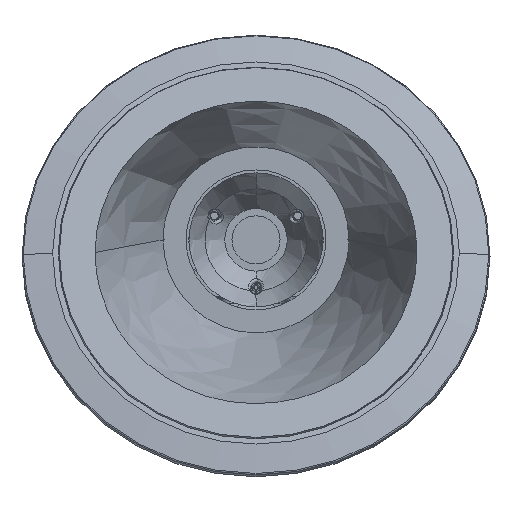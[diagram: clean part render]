
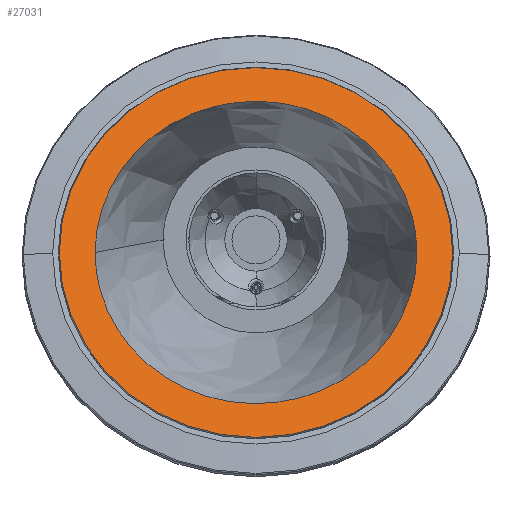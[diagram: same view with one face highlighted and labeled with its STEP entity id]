
A CAD part, front view. The second image highlights one B-rep face of the part: STEP entity #27031.
In plain terms, the highlighted planar face has unit normal (0, -0.94, 0.342).
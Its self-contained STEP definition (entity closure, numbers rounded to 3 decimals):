
#26475=CARTESIAN_POINT('',(0.,-43.249,-2.882));
#26476=DIRECTION('',(0.,-0.94,0.342));
#26477=DIRECTION('',(0.,-0.342,-0.94));
#26478=AXIS2_PLACEMENT_3D('',#26475,#26476,#26477);
#26480=CARTESIAN_POINT('',(0.,-43.249,-2.882));
#26481=DIRECTION('',(0.,-0.94,0.342));
#26482=DIRECTION('',(0.,0.342,0.94));
#26483=AXIS2_PLACEMENT_3D('',#26480,#26481,#26482);
#26485=CARTESIAN_POINT('',(36.8,-43.249,
-2.882));
#26486=CARTESIAN_POINT('',(36.8,-43.661,
-4.013));
#26487=CARTESIAN_POINT('',(36.681,-44.485,
-6.277));
#26488=CARTESIAN_POINT('',(36.151,-45.708,
-9.639));
#26489=CARTESIAN_POINT('',(35.272,-46.908,
-12.936));
#26490=CARTESIAN_POINT('',(33.648,-48.462,
-17.203));
#26491=CARTESIAN_POINT('',(30.795,-50.287,
-22.218));
#26492=CARTESIAN_POINT('',(26.189,-52.206,
-27.492));
#26493=CARTESIAN_POINT('',(20.577,-53.782,
-31.82));
#26494=CARTESIAN_POINT('',(14.174,-54.952,
-35.036));
#26495=CARTESIAN_POINT('',(7.226,-55.673,
-37.017));
#26496=CARTESIAN_POINT('',(0.,-55.916,-37.685));
#26497=CARTESIAN_POINT('',(-7.226,-55.673,
-37.017));
#26498=CARTESIAN_POINT('',(-14.174,-54.952,
-35.036));
#26499=CARTESIAN_POINT('',(-20.577,-53.782,
-31.82));
#26500=CARTESIAN_POINT('',(-26.189,-52.206,
-27.492));
#26501=CARTESIAN_POINT('',(-30.795,-50.287,
-22.218));
#26502=CARTESIAN_POINT('',(-33.648,-48.462,
-17.203));
#26503=CARTESIAN_POINT('',(-35.272,-46.908,
-12.936));
#26504=CARTESIAN_POINT('',(-36.151,-45.708,
-9.639));
#26505=CARTESIAN_POINT('',(-36.681,-44.485,
-6.277));
#26506=CARTESIAN_POINT('',(-36.8,-43.661,
-4.013));
#26507=CARTESIAN_POINT('',(-36.8,-43.249,
-2.882));
#26509=CARTESIAN_POINT('',(-36.8,-43.249,
-2.882));
#26510=CARTESIAN_POINT('',(-36.8,-42.837,
-1.75));
#26511=CARTESIAN_POINT('',(-36.681,-42.013,
0.513));
#26512=CARTESIAN_POINT('',(-36.151,-40.789,
3.875));
#26513=CARTESIAN_POINT('',(-35.272,-39.589,
7.173));
#26514=CARTESIAN_POINT('',(-33.648,-38.036,
11.44));
#26515=CARTESIAN_POINT('',(-30.795,-36.211,
16.454));
#26516=CARTESIAN_POINT('',(-26.189,-34.292,
21.728));
#26517=CARTESIAN_POINT('',(-20.577,-32.716,
26.056));
#26518=CARTESIAN_POINT('',(-14.174,-31.546,
29.273));
#26519=CARTESIAN_POINT('',(-7.226,-30.825,
31.253));
#26520=CARTESIAN_POINT('',(0.,-30.581,31.922));
#26521=CARTESIAN_POINT('',(7.226,-30.825,
31.253));
#26522=CARTESIAN_POINT('',(14.174,-31.546,
29.273));
#26523=CARTESIAN_POINT('',(20.577,-32.716,
26.056));
#26524=CARTESIAN_POINT('',(26.189,-34.292,
21.728));
#26525=CARTESIAN_POINT('',(30.795,-36.211,
16.454));
#26526=CARTESIAN_POINT('',(33.648,-38.036,
11.44));
#26527=CARTESIAN_POINT('',(35.272,-39.589,
7.173));
#26528=CARTESIAN_POINT('',(36.151,-40.789,
3.875));
#26529=CARTESIAN_POINT('',(36.681,-42.013,
0.513));
#26530=CARTESIAN_POINT('',(36.8,-42.837,
-1.75));
#26531=CARTESIAN_POINT('',(36.8,-43.249,
-2.882));
#26720=VERTEX_POINT('',#26485);
#26721=VERTEX_POINT('',#26507);
#26724=CARTESIAN_POINT('',(0.,-58.64,-45.168));
#26725=CARTESIAN_POINT('',(0.,-27.858,
39.404));
#26726=VERTEX_POINT('',#26724);
#26727=VERTEX_POINT('',#26725);
#27015=CARTESIAN_POINT('',(0.,-42.2,0.));
#27016=DIRECTION('',(0.,-0.94,0.342));
#27017=DIRECTION('',(0.,0.342,0.94));
#27018=AXIS2_PLACEMENT_3D('',#27015,#27016,#27017);
#27019=PLANE('',#27018);
#27020=ORIENTED_EDGE('',*,*,#27005,.F.);
#27022=ORIENTED_EDGE('',*,*,#27021,.F.);
#27023=EDGE_LOOP('',(#27020,#27022));
#27024=FACE_OUTER_BOUND('',#27023,.F.);
#27026=ORIENTED_EDGE('',*,*,#27025,.F.);
#27028=ORIENTED_EDGE('',*,*,#27027,.F.);
#27029=EDGE_LOOP('',(#27026,#27028));
#27030=FACE_BOUND('',#27029,.F.);
#27031=ADVANCED_FACE('',(#27024,#27030),#27019,.T.);
#26479=CIRCLE('',#26478,45.);
#26484=CIRCLE('',#26483,45.);
#26508=B_SPLINE_CURVE_WITH_KNOTS('',3,(#26485,#26486,#26487,#26488,#26489,
#26490,#26491,#26492,#26493,#26494,#26495,#26496,#26497,#26498,#26499,#26500,
#26501,#26502,#26503,#26504,#26505,#26506,#26507),.UNSPECIFIED.,.F.,.F.,(4,1,1,
1,1,1,1,1,1,1,1,1,1,1,1,1,1,1,1,1,4),(0.,0.031,0.063,0.094,0.125,
0.188,0.25,0.313,0.375,0.438,0.5,0.563,0.625,0.688,
0.75,0.813,0.875,0.906,0.938,0.969,1.),.UNSPECIFIED.);
#26532=B_SPLINE_CURVE_WITH_KNOTS('',3,(#26509,#26510,#26511,#26512,#26513,
#26514,#26515,#26516,#26517,#26518,#26519,#26520,#26521,#26522,#26523,#26524,
#26525,#26526,#26527,#26528,#26529,#26530,#26531),.UNSPECIFIED.,.F.,.F.,(4,1,1,
1,1,1,1,1,1,1,1,1,1,1,1,1,1,1,1,1,4),(0.,0.031,0.063,0.094,0.125,
0.188,0.25,0.313,0.375,0.438,0.5,0.563,0.625,0.688,
0.75,0.813,0.875,0.906,0.938,0.969,1.),.UNSPECIFIED.);
#27005=EDGE_CURVE('',#26726,#26727,#26479,.T.);
#27021=EDGE_CURVE('',#26727,#26726,#26484,.T.);
#27025=EDGE_CURVE('',#26720,#26721,#26508,.T.);
#27027=EDGE_CURVE('',#26721,#26720,#26532,.T.);
